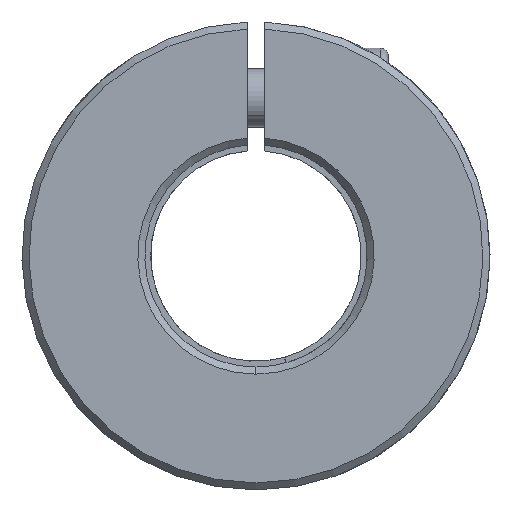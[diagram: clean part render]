
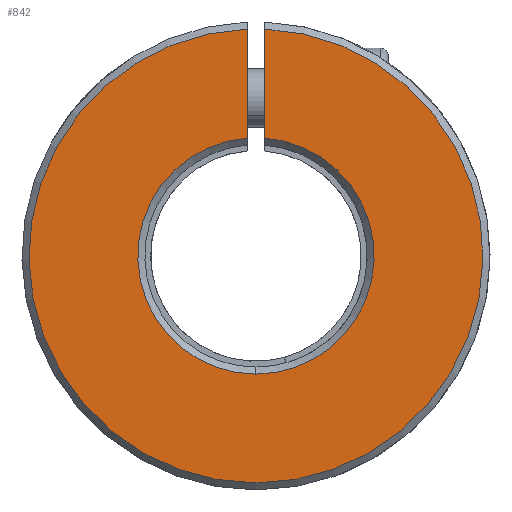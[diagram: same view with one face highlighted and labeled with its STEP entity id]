
A CAD part, front view. The second image highlights one B-rep face of the part: STEP entity #842.
In plain terms, the highlighted planar face has unit normal (0, -1, 0).
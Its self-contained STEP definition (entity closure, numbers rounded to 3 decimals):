
#466 = DIRECTION ( 'NONE',  ( 0., 1., 0. ) ) ;
#485 = VERTEX_POINT ( 'NONE', #2973 ) ;
#842 = ADVANCED_FACE ( 'NONE', ( #4394 ), #2202, .F. ) ;
#866 = DIRECTION ( 'NONE',  ( 0., 0., 1. ) ) ;
#938 = VERTEX_POINT ( 'NONE', #5236 ) ;
#1048 = EDGE_CURVE ( 'NONE', #938, #4169, #2548, .T. ) ;
#1266 = VECTOR ( 'NONE', #2606, 1000. ) ;
#1376 = CIRCLE ( 'NONE', #4644, 19.4 ) ;
#1737 = VECTOR ( 'NONE', #3790, 1000. ) ;
#1811 = EDGE_CURVE ( 'NONE', #4169, #485, #2658, .T. ) ;
#2016 = LINE ( 'NONE', #3820, #1737 ) ;
#2067 = EDGE_LOOP ( 'NONE', ( #3632, #3891, #3925, #5057, #5319 ) ) ;
#2155 = VERTEX_POINT ( 'NONE', #5654 ) ;
#2174 = AXIS2_PLACEMENT_3D ( 'NONE', #3549, #3171, #866 ) ;
#2202 = PLANE ( 'NONE',  #3836 ) ;
#2238 = VERTEX_POINT ( 'NONE', #2985 ) ;
#2243 = DIRECTION ( 'NONE',  ( 0., 0., 1. ) ) ;
#2548 = CIRCLE ( 'NONE', #3125, 10.1 ) ;
#2606 = DIRECTION ( 'NONE',  ( 0., 0., 1. ) ) ;
#2630 = CARTESIAN_POINT ( 'NONE',  ( -0.75, -25., -2. ) ) ;
#2658 = CIRCLE ( 'NONE', #2174, 10.1 ) ;
#2703 = CARTESIAN_POINT ( 'NONE',  ( 0., -25., 0. ) ) ;
#2973 = CARTESIAN_POINT ( 'NONE',  ( -0.75, -25., 10.072 ) ) ;
#2985 = CARTESIAN_POINT ( 'NONE',  ( -0.75, -25., 19.385 ) ) ;
#3125 = AXIS2_PLACEMENT_3D ( 'NONE', #2703, #466, #2243 ) ;
#3171 = DIRECTION ( 'NONE',  ( 0., 1., 0. ) ) ;
#3499 = DIRECTION ( 'NONE',  ( 0., 0., 1. ) ) ;
#3517 = LINE ( 'NONE', #2630, #1266 ) ;
#3549 = CARTESIAN_POINT ( 'NONE',  ( 0., -25., 0. ) ) ;
#3632 = ORIENTED_EDGE ( 'NONE', *, *, #5415, .T. ) ;
#3790 = DIRECTION ( 'NONE',  ( 0., 0., -1. ) ) ;
#3820 = CARTESIAN_POINT ( 'NONE',  ( 0.75, -25., -2. ) ) ;
#3836 = AXIS2_PLACEMENT_3D ( 'NONE', #5733, #3979, #4461 ) ;
#3891 = ORIENTED_EDGE ( 'NONE', *, *, #1048, .T. ) ;
#3907 = EDGE_CURVE ( 'NONE', #485, #2238, #3517, .T. ) ;
#3925 = ORIENTED_EDGE ( 'NONE', *, *, #1811, .T. ) ;
#3979 = DIRECTION ( 'NONE',  ( 0., 1., 0. ) ) ;
#4169 = VERTEX_POINT ( 'NONE', #5286 ) ;
#4394 = FACE_OUTER_BOUND ( 'NONE', #2067, .T. ) ;
#4461 = DIRECTION ( 'NONE',  ( 0., 0., 1. ) ) ;
#4644 = AXIS2_PLACEMENT_3D ( 'NONE', #4793, #5365, #3499 ) ;
#4793 = CARTESIAN_POINT ( 'NONE',  ( 0., -25., 0. ) ) ;
#5057 = ORIENTED_EDGE ( 'NONE', *, *, #3907, .T. ) ;
#5236 = CARTESIAN_POINT ( 'NONE',  ( 0.75, -25., 10.072 ) ) ;
#5286 = CARTESIAN_POINT ( 'NONE',  ( 0., -25., -10.1 ) ) ;
#5319 = ORIENTED_EDGE ( 'NONE', *, *, #5808, .T. ) ;
#5365 = DIRECTION ( 'NONE',  ( 0., -1., 0. ) ) ;
#5415 = EDGE_CURVE ( 'NONE', #2155, #938, #2016, .T. ) ;
#5654 = CARTESIAN_POINT ( 'NONE',  ( 0.75, -25., 19.385 ) ) ;
#5733 = CARTESIAN_POINT ( 'NONE',  ( 0., -25., 0. ) ) ;
#5808 = EDGE_CURVE ( 'NONE', #2238, #2155, #1376, .T. ) ;
